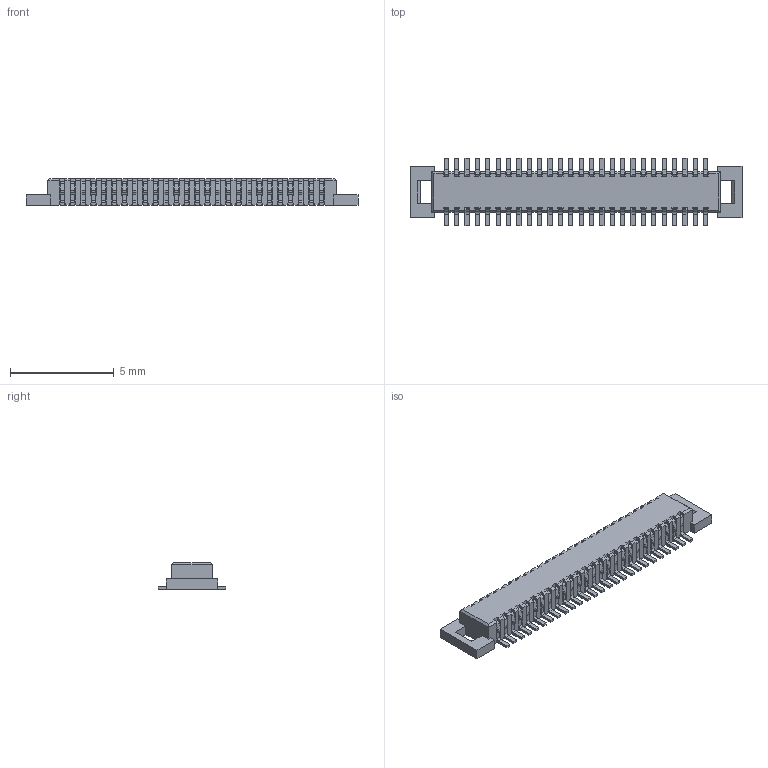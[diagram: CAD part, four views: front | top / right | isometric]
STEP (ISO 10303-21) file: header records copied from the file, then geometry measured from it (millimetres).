
FILE_DESCRIPTION(('CATIA V5 STEP Exchange'),'2;1');
FILE_NAME('F:\黄富鸿\板对板\0.5 单槽\无柱\公座\H1.28\HC-PBB05-1-52-M-H1.28-G1-R-06 (BTB0.5 单槽 公座 立贴 编带)-HCTL.stp','2026-01-20T08:29:29+00:00',('none'),('none'),'CATIA Version 5 Release 20 GA (IN-10)','CATIA V5 STEP AP203','none');
FILE_SCHEMA(('CONFIG_CONTROL_DESIGN'));
Products named in the file (1): Part1
Bounding box: 16 x 3.24 x 1.28 mm (x, y, z)
Volume: 35.1 mm3; surface area: 333.3 mm2
Topology: 53 solids, 53 shells, 2682 faces, 7730 edges, 5152 vertices
Faces by surface type: plane 2162, cylinder 520
Entity records: 80354 total; most frequent: ORIENTED_EDGE 15460, CARTESIAN_POINT 14435, DIRECTION 10822, EDGE_CURVE 7730, VECTOR 6686, LINE 6686, VERTEX_POINT 5152, EDGE_LOOP 2684
